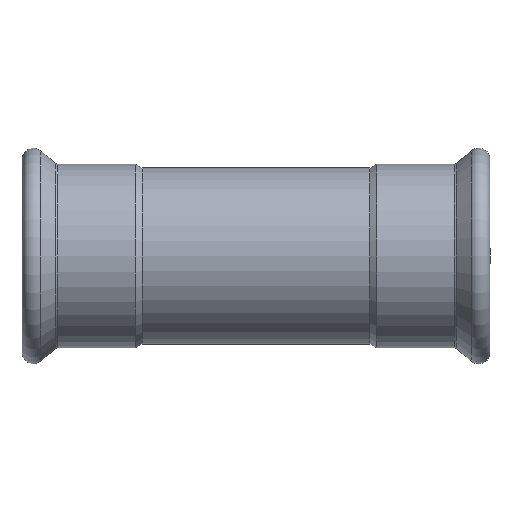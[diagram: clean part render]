
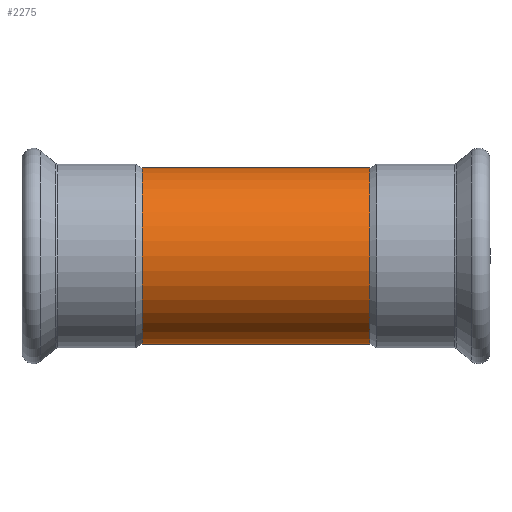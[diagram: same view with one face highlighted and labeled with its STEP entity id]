
A CAD part, front view. The second image highlights one B-rep face of the part: STEP entity #2275.
In plain terms, the highlighted cylindrical face has radius 54 mm (diameter 108 mm), a full revolution.
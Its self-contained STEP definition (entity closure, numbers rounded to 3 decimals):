
#2079=CARTESIAN_POINT('',(0.,52.525,12.536));
#2080=VERTEX_POINT('',#2079);
#2155=CARTESIAN_POINT('',(0.,52.525,12.536));
#2156=CARTESIAN_POINT('',(0.,52.525,12.536));
#2157=CARTESIAN_POINT('',(0.,52.525,12.536));
#2158=CARTESIAN_POINT('',(0.,52.525,12.536));
#2159=CARTESIAN_POINT('',(0.728,52.525,12.536));
#2160=CARTESIAN_POINT('',(1.703,52.544,12.457));
#2161=CARTESIAN_POINT('',(3.017,52.603,12.204));
#2162=CARTESIAN_POINT('',(3.718,52.645,12.02));
#2163=CARTESIAN_POINT('',(4.637,52.712,11.723));
#2164=CARTESIAN_POINT('',(5.875,52.821,11.229));
#2165=CARTESIAN_POINT('',(7.125,52.968,10.519));
#2166=CARTESIAN_POINT('',(8.29,53.127,9.676));
#2167=CARTESIAN_POINT('',(9.2,53.266,8.894));
#2168=CARTESIAN_POINT('',(10.011,53.403,8.021));
#2169=CARTESIAN_POINT('',(10.592,53.508,7.279));
#2170=CARTESIAN_POINT('',(10.952,53.576,6.762));
#2171=CARTESIAN_POINT('',(11.497,53.681,5.895));
#2172=CARTESIAN_POINT('',(12.138,53.812,4.619));
#2173=CARTESIAN_POINT('',(12.57,53.905,3.277));
#2174=CARTESIAN_POINT('',(12.838,53.964,2.053));
#2175=CARTESIAN_POINT('',(12.946,53.988,1.271));
#2176=CARTESIAN_POINT('',(13.012,54.003,0.172));
#2177=CARTESIAN_POINT('',(12.995,53.999,-0.773));
#2178=CARTESIAN_POINT('',(12.869,53.971,-1.857));
#2179=CARTESIAN_POINT('',(12.628,53.918,-3.09));
#2180=CARTESIAN_POINT('',(12.243,53.834,-4.296));
#2181=CARTESIAN_POINT('',(11.723,53.727,-5.445));
#2182=CARTESIAN_POINT('',(11.121,53.607,-6.543));
#2183=CARTESIAN_POINT('',(10.299,53.452,-7.708));
#2184=CARTESIAN_POINT('',(9.434,53.305,-8.643));
#2185=CARTESIAN_POINT('',(8.502,53.158,-9.509));
#2186=CARTESIAN_POINT('',(7.372,52.996,-10.382));
#2187=CARTESIAN_POINT('',(5.822,52.817,-11.249));
#2188=CARTESIAN_POINT('',(4.471,52.698,-11.79));
#2189=CARTESIAN_POINT('',(3.239,52.614,-12.159));
#2190=CARTESIAN_POINT('',(1.803,52.545,-12.452));
#2191=CARTESIAN_POINT('',(0.005,52.513,-12.583));
#2192=CARTESIAN_POINT('',(-1.934,52.547,-12.444));
#2193=CARTESIAN_POINT('',(-3.69,52.637,-12.059));
#2194=CARTESIAN_POINT('',(-4.911,52.735,-11.62));
#2195=CARTESIAN_POINT('',(-6.084,52.848,-11.101));
#2196=CARTESIAN_POINT('',(-7.345,52.993,-10.4));
#2197=CARTESIAN_POINT('',(-8.877,53.212,-9.222));
#2198=CARTESIAN_POINT('',(-10.191,53.432,-7.857));
#2199=CARTESIAN_POINT('',(-11.292,53.639,-6.307));
#2200=CARTESIAN_POINT('',(-12.,53.784,-4.891));
#2201=CARTESIAN_POINT('',(-12.428,53.874,-3.718));
#2202=CARTESIAN_POINT('',(-12.724,53.939,-2.658));
#2203=CARTESIAN_POINT('',(-12.945,53.988,-1.415));
#2204=CARTESIAN_POINT('',(-13.027,54.006,-0.002));
#2205=CARTESIAN_POINT('',(-12.946,53.988,1.4));
#2206=CARTESIAN_POINT('',(-12.701,53.933,2.799));
#2207=CARTESIAN_POINT('',(-12.292,53.845,4.162));
#2208=CARTESIAN_POINT('',(-11.734,53.729,5.456));
#2209=CARTESIAN_POINT('',(-11.029,53.589,6.686));
#2210=CARTESIAN_POINT('',(-10.322,53.458,7.646));
#2211=CARTESIAN_POINT('',(-9.695,53.35,8.362));
#2212=CARTESIAN_POINT('',(-9.029,53.24,9.04));
#2213=CARTESIAN_POINT('',(-7.771,53.048,10.126));
#2214=CARTESIAN_POINT('',(-6.105,52.842,11.137));
#2215=CARTESIAN_POINT('',(-4.317,52.684,11.852));
#2216=CARTESIAN_POINT('',(-2.442,52.563,12.377));
#2217=CARTESIAN_POINT('',(-0.97,52.525,12.536));
#2218=CARTESIAN_POINT('',(0.,52.525,12.536));
#2219=B_SPLINE_CURVE_WITH_KNOTS('',3,(#2155,#2156,#2157,#2158,#2159,#2160,#2161,#2162,#2163,#2164,#2165,#2166,#2167,#2168,#2169,#2170,#2171,#2172,#2173,#2174,#2175,#2176,#2177,#2178,#2179,#2180,#2181,#2182,#2183,#2184,#2185,#2186,#2187,#2188,#2189,#2190,#2191,#2192,#2193,#2194,#2195,#2196,#2197,#2198,#2199,#2200,#2201,#2202,#2203,#2204,#2205,#2206,#2207,#2208,#2209,#2210,#2211,#2212,#2213,#2214,#2215,#2216,#2217,#2218),.UNSPECIFIED.,.T.,.U.,(4,3,1,1,1,1,1,1,1,1,1,1,1,1,1,1,1,1,1,1,1,1,1,1,1,1,1,1,1,1,1,1,1,1,1,1,1,1,1,1,1,1,1,1,1,1,1,1,1,1,1,1,1,1,1,1,1,1,1,4),(-6.65,-6.65,-6.472,-6.412,-6.323,-6.294,-6.175,-5.997,-5.937,-5.819,-5.7,-5.64,-5.581,-5.541,-5.383,-5.225,-5.185,-5.066,-5.027,-4.908,-4.829,-4.75,-4.591,-4.512,-4.433,-4.275,-4.156,-4.117,-3.958,-3.8,-3.681,-3.602,-3.483,-3.325,-3.167,-3.008,-2.889,-2.85,-2.692,-2.533,-2.375,-2.217,-2.058,-1.979,-1.9,-1.781,-1.662,-1.544,-1.425,-1.306,-1.187,-1.069,-0.95,-0.891,-0.831,-0.712,-0.475,-0.356,-0.237,0.),.UNSPECIFIED.);
#2220=EDGE_CURVE('',#2080,#2080,#2219,.T.);
#2245=CARTESIAN_POINT('',(0.,0.,0.0));
#2246=DIRECTION('',(1.0,0.,0.0));
#2247=DIRECTION('',(0.0,1.0,0.0));
#2248=AXIS2_PLACEMENT_3D('',#2245,#2246,#2247);
#2249=CYLINDRICAL_SURFACE('',#2248,54.);
#2250=CARTESIAN_POINT('',(-69.894,54.0,0.0));
#2251=VERTEX_POINT('',#2250);
#2252=CARTESIAN_POINT('',(-69.894,0.,0.0));
#2253=DIRECTION('',(1.0,0.0,0.0));
#2254=DIRECTION('',(0.0,1.0,0.0));
#2255=AXIS2_PLACEMENT_3D('',#2252,#2253,#2254);
#2256=CIRCLE('',#2255,54.);
#2257=EDGE_CURVE('',#2251,#2251,#2256,.T.);
#2258=ORIENTED_EDGE('',*,*,#2257,.T.);
#2259=EDGE_LOOP('',(#2258));
#2260=FACE_OUTER_BOUND('',#2259,.T.);
#2261=CARTESIAN_POINT('',(69.894,54.,0.0));
#2262=VERTEX_POINT('',#2261);
#2263=CARTESIAN_POINT('',(69.894,0.,0.0));
#2264=DIRECTION('',(1.0,0.0,0.0));
#2265=DIRECTION('',(0.0,1.0,0.0));
#2266=AXIS2_PLACEMENT_3D('',#2263,#2264,#2265);
#2267=CIRCLE('',#2266,54.);
#2268=EDGE_CURVE('',#2262,#2262,#2267,.T.);
#2269=ORIENTED_EDGE('',*,*,#2268,.F.);
#2270=EDGE_LOOP('',(#2269));
#2271=FACE_BOUND('',#2270,.T.);
#2272=ORIENTED_EDGE('',*,*,#2220,.F.);
#2273=EDGE_LOOP('',(#2272));
#2274=FACE_BOUND('',#2273,.T.);
#2275=ADVANCED_FACE('',(#2260,#2271,#2274),#2249,.T.);
